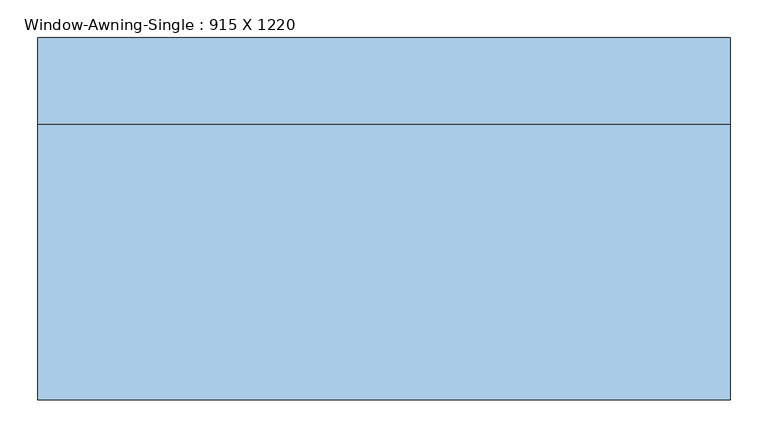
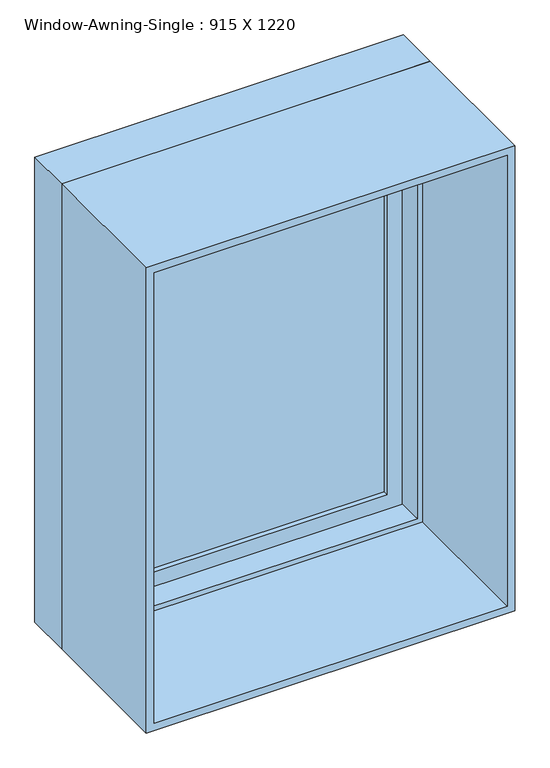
"""IFC4 building model written with IfcOpenShell, lengths in millimetres: window geometry, Window-Awning-Single : 915 X 1220."""

from ifc_helpers import new_model, si_unit, frame, origin, place, context, project, spatial, polyline, outline, extrude, faceted_brep, source, transform, mapped, element, save


def window_awning_single_915_x_1220_66c2d390(model_context):
    return source(origin(), model_context, "Body", "SolidModel", [
        faceted_brep([(444.8, 198.25, 927.1), (444.8, 249.05, 927.1), (-444.8, 249.05, 927.1), (-444.8, 198.25, 927.1), (425.75, 134.75, 946.15), (425.75, 198.25, 946.15), (-425.75, 198.25, 946.15), (-425.75, 134.75, 946.15), (457.5, 249.05, 914.4), (457.5, 134.75, 914.4), (-457.5, 134.75, 914.4), (-457.5, 249.05, 914.4), (-444.8, 249.05, 2121.7), (-444.8, 198.25, 2121.7), (-425.75, 198.25, 2102.65), (-425.75, 134.75, 2102.65), (-457.5, 134.75, 2134.4), (-457.5, 249.05, 2134.4), (444.8, 249.05, 2121.7), (444.8, 198.25, 2121.7), (425.75, 198.25, 2102.65), (425.75, 134.75, 2102.65), (457.5, 134.75, 2134.4), (457.5, 249.05, 2134.4)], [[[0, 1, 2, 3]], [[4, 5, 6, 7]], [[8, 9, 10, 11]], [[3, 2, 12, 13]], [[7, 6, 14, 15]], [[11, 10, 16, 17]], [[13, 12, 18, 19]], [[15, 14, 20, 21]], [[17, 16, 22, 23]], [[11, 17, 23, 8], [1, 18, 12, 2]], [[19, 18, 1, 0]], [[3, 13, 19, 0], [5, 20, 14, 6]], [[21, 20, 5, 4]], [[9, 22, 16, 10], [7, 15, 21, 4]], [[23, 22, 9, 8]]]),
        extrude(outline(polyline([(387.65, 230.0), (387.65, 223.65), (-387.65, 223.65), (-387.65, 230.0), (387.65, 230.0)])), frame((0.0, 0.0, 984.25), z_axis=(0.0, 0.0, 1.0), x_axis=(1.0, 0.0, 0.0)), (0.0, 0.0, 1.0), 1080.3),
        extrude(outline(polyline([(387.65, 217.3), (387.65, 210.95), (-387.65, 210.95), (-387.65, 217.3), (387.65, 217.3)])), frame((0.0, 0.0, 984.25), z_axis=(0.0, 0.0, 1.0), x_axis=(1.0, 0.0, 0.0)), (0.0, 0.0, 1.0), 1080.3),
        extrude(outline(polyline([(927.1, -444.8), (927.1, 444.8), (2121.7, 444.8), (2121.7, -444.8), (927.1, -444.8)]), holes=[polyline([(2064.55, -387.65), (2064.55, 387.65), (984.25, 387.65), (984.25, -387.65), (2064.55, -387.65)])]), frame((0.0, 198.25, 0.0), z_axis=(0.0, 1.0, 0.0), x_axis=(0.0, 0.0, 1.0)), (0.0, 0.0, 1.0), 44.45),
        extrude(outline(polyline([(2134.4, -457.5), (914.4, -457.5), (914.4, 457.5), (2134.4, 457.5), (2134.4, -457.5)]), holes=[polyline([(2115.35, -438.45), (2115.35, 438.45), (933.45, 438.45), (933.45, -438.45), (2115.35, -438.45)])]), frame((0.0, -230.0, 0.0), z_axis=(0.0, 1.0, 0.0), x_axis=(0.0, 0.0, 1.0)), (0.0, 0.0, 1.0), 364.75),
    ])


if __name__ == "__main__":
    model = new_model("IFC4")
    model_context = context("Model", 3, world=origin())
    ifc_project = project(units=[si_unit("LENGTHUNIT", "METRE", prefix="MILLI")], contexts=[model_context])
    site = spatial("IfcSite", under=ifc_project)
    building = spatial("IfcBuilding", under=site)
    placement = place(None, origin())
    window_awning_single_915_x_1220_shape = window_awning_single_915_x_1220_66c2d390(model_context)
    element("IfcWindow", 1, ObjectType="Window-Awning-Single : 915 X 1220", at=placement, inside=building, context=model_context, shape_type="MappedRepresentation", body=[
        mapped(window_awning_single_915_x_1220_shape, transform((0.0, 0.0, 0.0), x_axis=(1.0, 0.0, 0.0), y_axis=(0.0, 1.0, 0.0), z_axis=(0.0, 0.0, 1.0))),
    ])
    save(model, "model.ifc")
